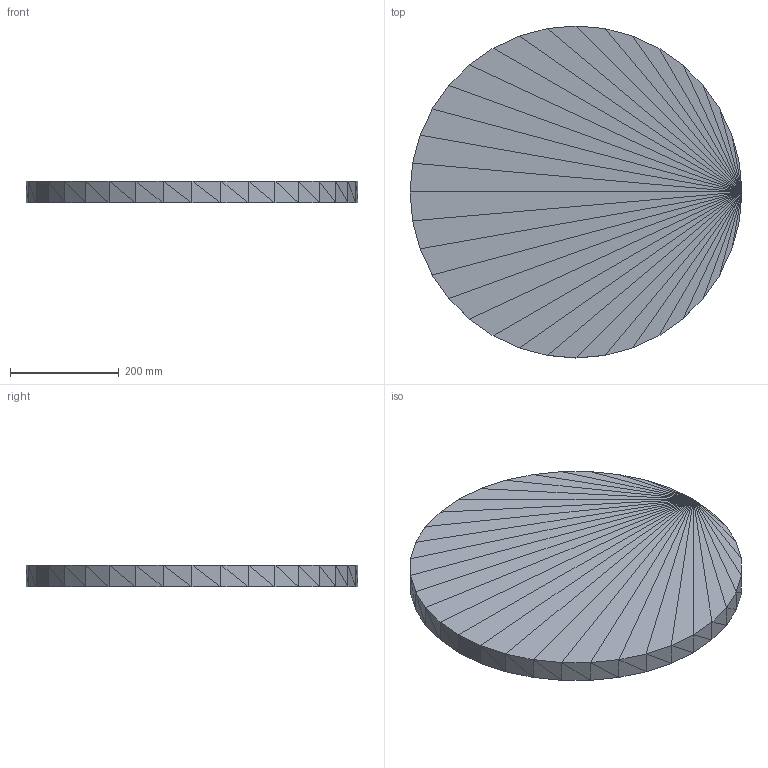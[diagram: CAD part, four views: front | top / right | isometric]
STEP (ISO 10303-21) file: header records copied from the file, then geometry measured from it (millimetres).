
FILE_DESCRIPTION(('ISINAC STEP AP214'),'2;1');
FILE_NAME('ISINAC_CIR.610_40mm_ADHESIVO','2026-05-03T10:49:19',('ISINAC'),('www.isinac.com'),'ISINAC BIM Generator 1.0','','');
FILE_SCHEMA(('AUTOMOTIVE_DESIGN'));
Length unit declared in the file: millimetre
Products named in the file (1): ISINAC_CIR.610_40mm_ADHESIVO
Bounding box: 610 x 610 x 40 mm (x, y, z)
Surface area: 658087.9 mm2 (no closed solid volume)
Topology: 0 solids, 140 shells, 140 faces, 420 edges, 420 vertices
Faces by surface type: plane 140
Entity records: 1553 total; most frequent: CARTESIAN_POINT 560, DIRECTION 280, POLY_LOOP 140, FACE_OUTER_BOUND 140, AXIS2_PLACEMENT_3D 140, PLANE 140, FACE_SURFACE 140, CLOSED_SHELL 1
